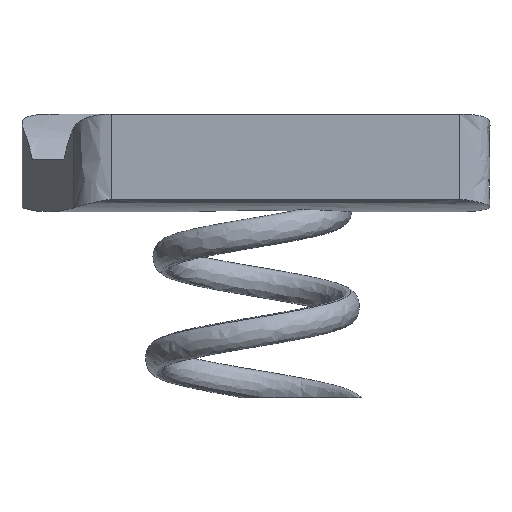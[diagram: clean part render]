
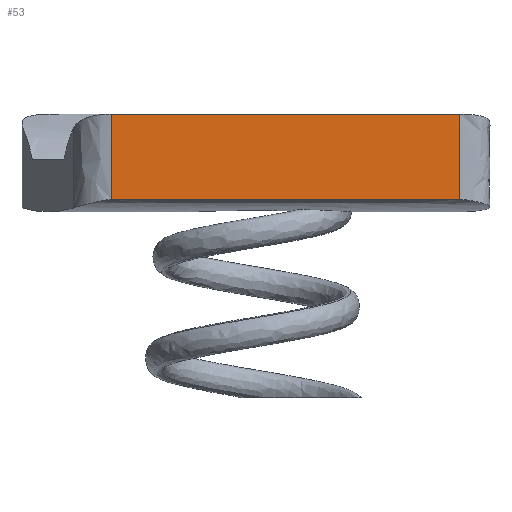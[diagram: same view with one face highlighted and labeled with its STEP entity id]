
A CAD part, front view. The second image highlights one B-rep face of the part: STEP entity #53.
In plain terms, the highlighted planar face has unit normal (0, -1, 0).
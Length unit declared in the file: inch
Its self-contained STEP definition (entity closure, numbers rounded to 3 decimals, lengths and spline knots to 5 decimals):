
#53=ADVANCED_FACE('',(#127),#128,.T.);
#127=FACE_OUTER_BOUND('',#219,.T.);
#128=PLANE('',#220);
#219=EDGE_LOOP('',(#1844,#1845,#1846,#1847));
#220=AXIS2_PLACEMENT_3D('',#1848,#1849,#1850);
#1844=ORIENTED_EDGE('',*,*,#2074,.T.);
#1845=ORIENTED_EDGE('',*,*,#2075,.T.);
#1846=ORIENTED_EDGE('',*,*,#2076,.F.);
#1847=ORIENTED_EDGE('',*,*,#2077,.F.);
#1848=CARTESIAN_POINT('',(-0.14909,0.,0.07114));
#1849=DIRECTION('',(0.,-1.0,-0.0));
#1850=DIRECTION('',(0.0,0.0,-1.0));
#2074=EDGE_CURVE('',#2184,#2185,#2186,.T.);
#2075=EDGE_CURVE('',#2185,#2187,#2188,.T.);
#2076=EDGE_CURVE('',#2189,#2187,#2190,.T.);
#2077=EDGE_CURVE('',#2184,#2189,#2191,.T.);
#2184=VERTEX_POINT('',#2347);
#2185=VERTEX_POINT('',#2348);
#2186=LINE('',#2349,#2350);
#2187=VERTEX_POINT('',#2351);
#2188=LINE('',#2352,#2353);
#2189=VERTEX_POINT('',#2354);
#2190=LINE('',#2355,#2356);
#2191=LINE('',#2357,#2358);
#2347=CARTESIAN_POINT('',(0.,0.,0.0));
#2348=CARTESIAN_POINT('',(0.58063,0.,0.0));
#2349=CARTESIAN_POINT('',(-0.14909,0.,0.0));
#2350=VECTOR('',#3112,1.);
#2351=CARTESIAN_POINT('',(0.58063,0.,0.14228));
#2352=CARTESIAN_POINT('',(0.58063,0.,-0.05009));
#2353=VECTOR('',#3113,1.);
#2354=CARTESIAN_POINT('',(0.,0.,0.14228));
#2355=CARTESIAN_POINT('',(-0.14909,0.,0.14228));
#2356=VECTOR('',#3114,1.);
#2357=CARTESIAN_POINT('',(0.,0.,-0.05009));
#2358=VECTOR('',#3115,1.);
#3112=DIRECTION('',(1.0,0.,0.0));
#3113=DIRECTION('',(0.0,0.0,1.0));
#3114=DIRECTION('',(1.0,0.,0.0));
#3115=DIRECTION('',(0.0,0.0,1.0));
